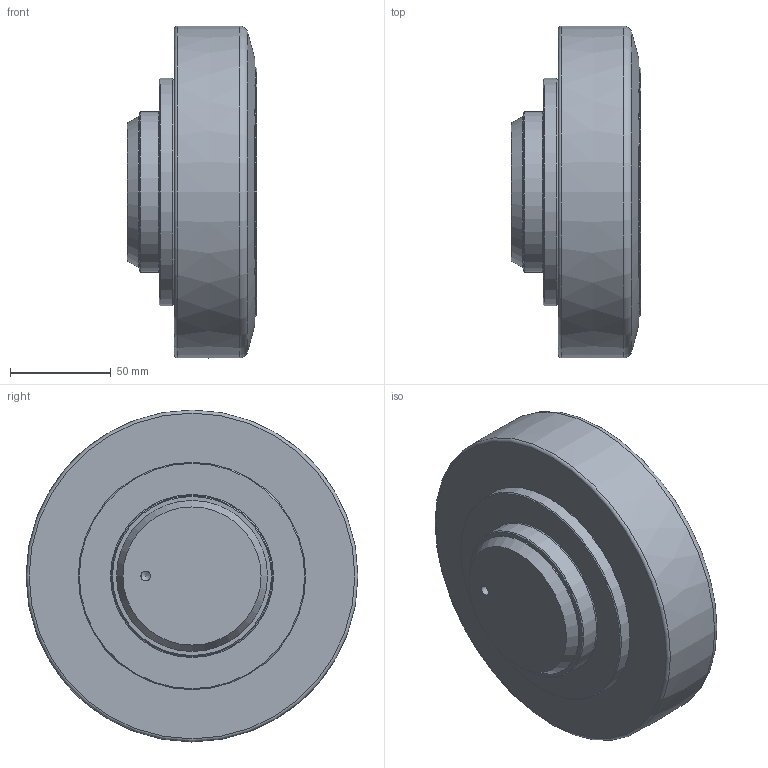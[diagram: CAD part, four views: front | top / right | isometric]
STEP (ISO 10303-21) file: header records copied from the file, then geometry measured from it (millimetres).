
FILE_DESCRIPTION(/* description */ ('-','CAx-IF Rec.Pracs.---Representation and Presentation of Product Manufacturing Information (PMI)---4.0---2014-10-13'),/* implementation_level */ '2;1');
FILE_NAME(/* name */ 'c:\temp\2befc572-cfca-4a5a-a39a-89b26716942c\e93e600c-d817-4802-bf5d-56f92f8363ed.stp',/* time_stamp */ '2020-04-01T16:09:29+02:00',/* author */ ('-'),/* organization */ ('NTI CADcenter A/S'),/* preprocessor_version */ 'ST-DEVELOPER v18',/* originating_system */ 'Autodesk Inventor 2020',/* authorisation */ '-');
FILE_SCHEMA (('AP242_MANAGED_MODEL_BASED_3D_ENGINEERING_MIM_LF { 1 0 10303 442 1 1 4 }'));
Length unit declared in the file: millimetre
Products named in the file (1): MR 165.0410_Kontur
Bounding box: 64.5 x 164.99 x 165 mm (x, y, z)
Volume: 996896.7 mm3; surface area: 67660.4 mm2
Topology: 1 solids, 1 shells, 87 faces, 233 edges, 164 vertices
Faces by surface type: plane 55, cone 14, cylinder 13, torus 4, bspline 1
Full cylindrical faces by diameter (mm): 2.5 x2, 4.917 x1, 12 x6, 75 x1, 80 x1, 113 x1, 123.8 x1
Entity records: 2909 total; most frequent: CARTESIAN_POINT 589, DIRECTION 491, ORIENTED_EDGE 462, EDGE_CURVE 231, AXIS2_PLACEMENT_3D 178, VERTEX_POINT 164, LINE 135, VECTOR 135
